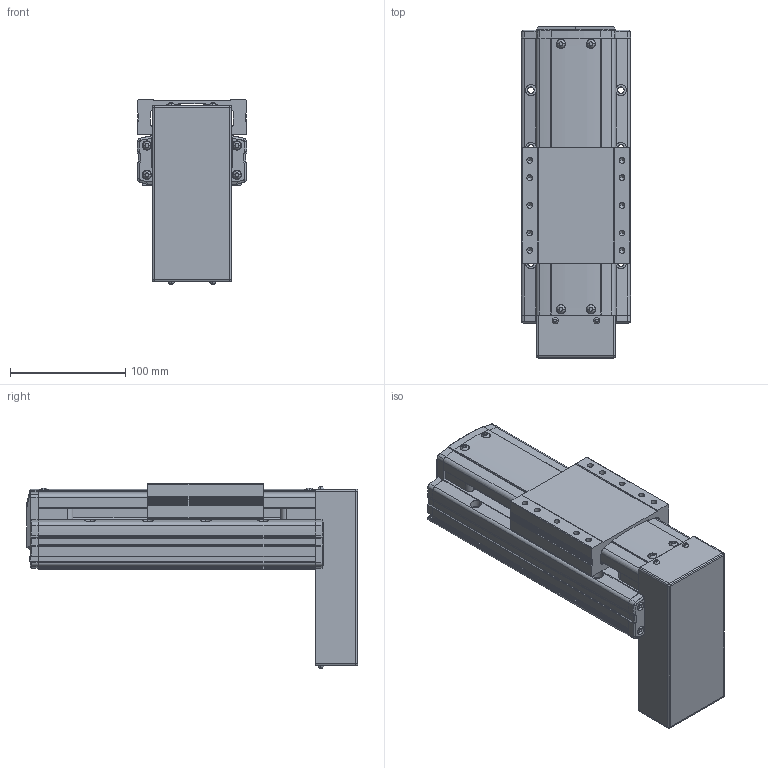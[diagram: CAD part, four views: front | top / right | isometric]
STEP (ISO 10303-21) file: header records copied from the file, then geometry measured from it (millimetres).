
FILE_DESCRIPTION(('STEP AP214'),'1');
FILE_NAME('Z:/Web/3D/PSA95/STP/PSA95-050 (3D)/PSA95ㅁㅁ-050PB.stp','2014-07-02T23:37:02',(' '),(' '),'Spatial InterOp 3D',' ',' ');
FILE_SCHEMA(('automotive_design'));
Length unit declared in the file: millimetre
Products named in the file (29): BASE; RRCV; 스크루 : Round - M4.0 x 10.0; 너트 : Square - M10.0 x 220.7419; RR1500; FRCV-090; 스크루 : Round - M4.0 x 6.0; SLBL-PA90; MTPL COVER; 스크루 : Round - M3.0 x 6.0; 1; 2
Bounding box: 95.1 x 287.5 x 159.57 mm (x, y, z)
Volume: 1821224.4 mm3; surface area: 231622.7 mm2
Topology: 29 solids, 29 shells, 1863 faces, 4965 edges, 3196 vertices
Faces by surface type: plane 1120, cylinder 503, cone 152, sphere 50, bspline 24, torus 14
Entity records: 75246 total; most frequent: CARTESIAN_POINT 12958, DIRECTION 9826, ORIENTED_EDGE 9782, EDGE_CURVE 4891, LINE 3406, VECTOR 3406, AXIS2_PLACEMENT_3D 3210, VERTEX_POINT 3196
